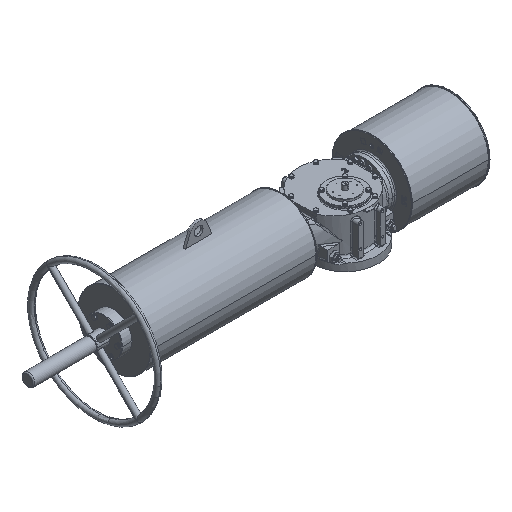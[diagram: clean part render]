
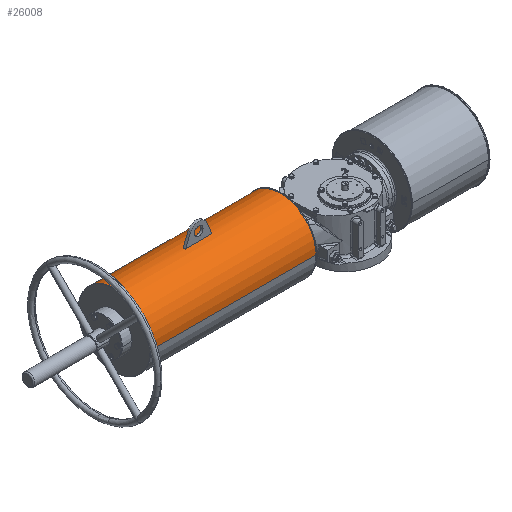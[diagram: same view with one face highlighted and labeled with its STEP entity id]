
A CAD part, isometric view. The second image highlights one B-rep face of the part: STEP entity #26008.
In plain terms, the highlighted cylindrical face has radius 162.5 mm (diameter 325 mm), a partial arc.
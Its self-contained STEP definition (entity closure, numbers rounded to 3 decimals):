
#4158 = CARTESIAN_POINT ( 'NONE',  ( -519.5, 30.5, 236.923 ) ) ;
#4358 = EDGE_CURVE ( 'NONE', #8137, #69099, #23934, .T. ) ;
#4420 = CARTESIAN_POINT ( 'NONE',  ( -208., 35.5, 74.5 ) ) ;
#4902 = DIRECTION ( 'NONE',  ( 0., 1., 0. ) ) ;
#6446 = VERTEX_POINT ( 'NONE', #79071 ) ;
#7230 = EDGE_LOOP ( 'NONE', ( #57372, #41222, #52747, #27954, #12753, #39335 ) ) ;
#7237 = CARTESIAN_POINT ( 'NONE',  ( -954., 35.5, 74.5 ) ) ;
#7520 = AXIS2_PLACEMENT_3D ( 'NONE', #10687, #77410, #16885 ) ;
#8137 = VERTEX_POINT ( 'NONE', #60089 ) ;
#8300 = VECTOR ( 'NONE', #61051, 1000. ) ;
#10687 = CARTESIAN_POINT ( 'NONE',  ( -639.5, 35.5, 74.5 ) ) ;
#12452 = CARTESIAN_POINT ( 'NONE',  ( -205., 198., 74.5 ) ) ;
#12513 = VERTEX_POINT ( 'NONE', #64662 ) ;
#12569 = DIRECTION ( 'NONE',  ( 0., -1., 0. ) ) ;
#12753 = ORIENTED_EDGE ( 'NONE', *, *, #29426, .T. ) ;
#13582 = CIRCLE ( 'NONE', #75644, 162.5 ) ;
#15553 = DIRECTION ( 'NONE',  ( 0., -1., 0. ) ) ;
#16717 = LINE ( 'NONE', #73132, #41191 ) ;
#16885 = DIRECTION ( 'NONE',  ( 0., 1., 0. ) ) ;
#20186 = CIRCLE ( 'NONE', #75166, 162.5 ) ;
#20775 = CARTESIAN_POINT ( 'NONE',  ( -208., 30.5, 236.923 ) ) ;
#23934 = CIRCLE ( 'NONE', #33835, 162.5 ) ;
#25289 = EDGE_CURVE ( 'NONE', #48668, #51277, #80150, .T. ) ;
#25432 = CIRCLE ( 'NONE', #66358, 162.5 ) ;
#25433 = DIRECTION ( 'NONE',  ( -1., 0., 0. ) ) ;
#26008 = ADVANCED_FACE ( 'NONE', ( #59623, #78653 ), #57885, .T. ) ;
#26288 = DIRECTION ( 'NONE',  ( -1., 0., 0. ) ) ;
#27387 = LINE ( 'NONE', #20775, #80542 ) ;
#27954 = ORIENTED_EDGE ( 'NONE', *, *, #74524, .T. ) ;
#29426 = EDGE_CURVE ( 'NONE', #12513, #71351, #20186, .T. ) ;
#29693 = DIRECTION ( 'NONE',  ( 1., 0., 0. ) ) ;
#32027 = ORIENTED_EDGE ( 'NONE', *, *, #52560, .F. ) ;
#32293 = CARTESIAN_POINT ( 'NONE',  ( -519.5, 35.5, 74.5 ) ) ;
#33835 = AXIS2_PLACEMENT_3D ( 'NONE', #70781, #29693, #15553 ) ;
#39335 = ORIENTED_EDGE ( 'NONE', *, *, #59857, .T. ) ;
#39558 = DIRECTION ( 'NONE',  ( 1., 0., 0. ) ) ;
#41191 = VECTOR ( 'NONE', #26288, 1000. ) ;
#41222 = ORIENTED_EDGE ( 'NONE', *, *, #73739, .T. ) ;
#44413 = EDGE_LOOP ( 'NONE', ( #56792, #66147, #57710, #32027 ) ) ;
#44484 = VERTEX_POINT ( 'NONE', #50389 ) ;
#45081 = DIRECTION ( 'NONE',  ( -1., 0., 0. ) ) ;
#45321 = EDGE_CURVE ( 'NONE', #70384, #44484, #13582, .T. ) ;
#46030 = EDGE_CURVE ( 'NONE', #48832, #6446, #51940, .T. ) ;
#46341 = CARTESIAN_POINT ( 'NONE',  ( -519.5, 40.5, 236.923 ) ) ;
#48458 = CIRCLE ( 'NONE', #7520, 162.5 ) ;
#48668 = VERTEX_POINT ( 'NONE', #75401 ) ;
#48832 = VERTEX_POINT ( 'NONE', #46341 ) ;
#48849 = CARTESIAN_POINT ( 'NONE',  ( -205., 35.5, 74.5 ) ) ;
#49711 = DIRECTION ( 'NONE',  ( -1., 0., 0. ) ) ;
#50389 = CARTESIAN_POINT ( 'NONE',  ( -954., -127., 74.5 ) ) ;
#51277 = VERTEX_POINT ( 'NONE', #12452 ) ;
#51940 = LINE ( 'NONE', #85939, #56585 ) ;
#52560 = EDGE_CURVE ( 'NONE', #48668, #44484, #61916, .T. ) ;
#52747 = ORIENTED_EDGE ( 'NONE', *, *, #4358, .T. ) ;
#54777 = AXIS2_PLACEMENT_3D ( 'NONE', #48849, #49711, #75799 ) ;
#56585 = VECTOR ( 'NONE', #25433, 1000. ) ;
#56792 = ORIENTED_EDGE ( 'NONE', *, *, #25289, .T. ) ;
#57372 = ORIENTED_EDGE ( 'NONE', *, *, #46030, .F. ) ;
#57710 = ORIENTED_EDGE ( 'NONE', *, *, #45321, .T. ) ;
#57885 = CYLINDRICAL_SURFACE ( 'NONE', #68982, 162.5 ) ;
#59230 = DIRECTION ( 'NONE',  ( 0., -1., 0. ) ) ;
#59623 = FACE_BOUND ( 'NONE', #7230, .T. ) ;
#59857 = EDGE_CURVE ( 'NONE', #71351, #6446, #48458, .T. ) ;
#60089 = CARTESIAN_POINT ( 'NONE',  ( -519.5, 35.5, 237. ) ) ;
#61051 = DIRECTION ( 'NONE',  ( -1., 0., 0. ) ) ;
#61916 = LINE ( 'NONE', #81800, #8300 ) ;
#63059 = CARTESIAN_POINT ( 'NONE',  ( -954., 198., 74.5 ) ) ;
#64662 = CARTESIAN_POINT ( 'NONE',  ( -639.5, 30.5, 236.923 ) ) ;
#65389 = DIRECTION ( 'NONE',  ( 0., -1., 0. ) ) ;
#66147 = ORIENTED_EDGE ( 'NONE', *, *, #77507, .T. ) ;
#66358 = AXIS2_PLACEMENT_3D ( 'NONE', #32293, #86603, #59230 ) ;
#68982 = AXIS2_PLACEMENT_3D ( 'NONE', #4420, #45081, #65389 ) ;
#69099 = VERTEX_POINT ( 'NONE', #4158 ) ;
#70384 = VERTEX_POINT ( 'NONE', #63059 ) ;
#70781 = CARTESIAN_POINT ( 'NONE',  ( -519.5, 35.5, 74.5 ) ) ;
#71351 = VERTEX_POINT ( 'NONE', #75306 ) ;
#73132 = CARTESIAN_POINT ( 'NONE',  ( -208., 198., 74.5 ) ) ;
#73739 = EDGE_CURVE ( 'NONE', #48832, #8137, #25432, .T. ) ;
#74524 = EDGE_CURVE ( 'NONE', #69099, #12513, #27387, .T. ) ;
#75083 = DIRECTION ( 'NONE',  ( -1., 0., 0. ) ) ;
#75166 = AXIS2_PLACEMENT_3D ( 'NONE', #84868, #78257, #4902 ) ;
#75306 = CARTESIAN_POINT ( 'NONE',  ( -639.5, 35.5, 237. ) ) ;
#75401 = CARTESIAN_POINT ( 'NONE',  ( -205., -127., 74.5 ) ) ;
#75644 = AXIS2_PLACEMENT_3D ( 'NONE', #7237, #39558, #12569 ) ;
#75799 = DIRECTION ( 'NONE',  ( 0., -1., 0. ) ) ;
#77410 = DIRECTION ( 'NONE',  ( -1., 0., 0. ) ) ;
#77507 = EDGE_CURVE ( 'NONE', #51277, #70384, #16717, .T. ) ;
#78257 = DIRECTION ( 'NONE',  ( -1., 0., 0. ) ) ;
#78653 = FACE_OUTER_BOUND ( 'NONE', #44413, .T. ) ;
#79071 = CARTESIAN_POINT ( 'NONE',  ( -639.5, 40.5, 236.923 ) ) ;
#80150 = CIRCLE ( 'NONE', #54777, 162.5 ) ;
#80542 = VECTOR ( 'NONE', #75083, 1000. ) ;
#81800 = CARTESIAN_POINT ( 'NONE',  ( -208., -127., 74.5 ) ) ;
#84868 = CARTESIAN_POINT ( 'NONE',  ( -639.5, 35.5, 74.5 ) ) ;
#85939 = CARTESIAN_POINT ( 'NONE',  ( -208., 40.5, 236.923 ) ) ;
#86603 = DIRECTION ( 'NONE',  ( 1., 0., 0. ) ) ;
